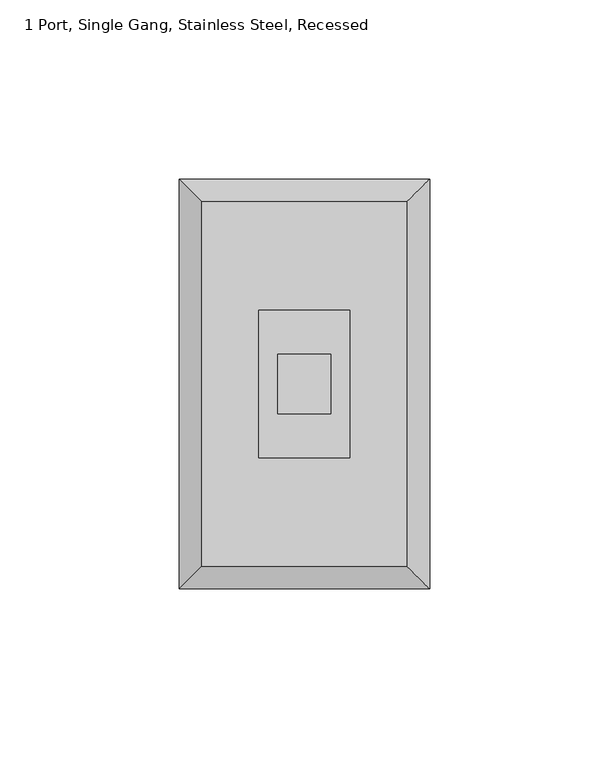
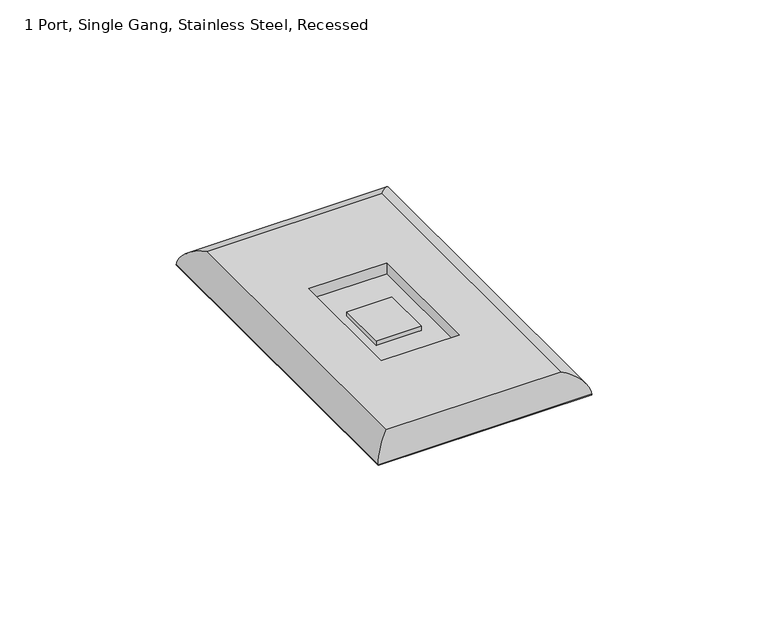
"""IFC4 building model written with IfcOpenShell, lengths in millimetres: electric appliance geometry, Data_Device-Work_Area-Leviton-QuickPort-Wallplate : 1 Port, Single Gang, Stainless Steel, Recessed."""

from ifc_helpers import new_model, si_unit, frame, origin, origin_with_axes, place, context, project, spatial, polyline, ellipse_curve, outline, extrude, source, transform, mapped, element, save
from ifc_brep_helpers import plane_surface, cylinder_surface, advanced_brep


def electric_appliance_1_port_single_gang_stainless_steel_ae41313f(model_context):
    return source(origin(), model_context, "Body", "SolidModel", [
        extrude(outline(polyline([(-15.6591, 16.4465), (-15.6591, -0.0635), (-30.3911, -0.0635), (-30.3911, 16.4465), (-15.6591, 16.4465)])), origin_with_axes(), (0.0, 0.0, 1.0), 3.81),
        advanced_brep(
        [(5.5499, -42.6085, 6.35), (5.5499, 58.9915, 6.35), (-51.6001, 58.9915, 6.35), (-51.6001, -42.6085, 6.35), (-35.7251, 28.7655, 6.35), (-10.3251, 28.7655, 6.35), (-10.3251, -12.3825, 6.35), (-35.7251, -12.3825, 6.35), (11.8999, 65.3415, 0.0), (11.8999, -48.9585, 0.0), (-57.9501, -48.9585, 0.0), (-57.9501, 65.3415, 0.0), (-15.6591, 16.4465, 0.0), (-30.3911, 16.4465, 0.0), (-30.3911, -0.0635, 0.0), (-15.6591, -0.0635, 0.0), (-57.9501, 65.3415, 0.254), (11.8999, 65.3415, 0.254), (-57.9501, -48.9585, 0.254), (11.8999, -48.9585, 0.254), (-15.6591, 16.4465, 2.54), (-30.3911, 16.4465, 2.54), (-30.3911, -0.0635, 2.54), (-15.6591, -0.0635, 2.54), (-10.3251, 28.7655, 2.54), (-35.7251, 28.7655, 2.54), (-35.7251, -12.3825, 2.54), (-10.3251, -12.3825, 2.54)],
        [
            (0, 1),
            (1, 2),
            (2, 3),
            (3, 0),
            (4, 5),
            (5, 6),
            (6, 7),
            (7, 4),
            (8, 9),
            (9, 10),
            (10, 11),
            (11, 8),
            (12, 13),
            (13, 14),
            (14, 15),
            (15, 12),
            (11, 16),
            (16, 17),
            (17, 8),
            (10, 18),
            (18, 16),
            (9, 19),
            (19, 18),
            (17, 19),
            (12, 20),
            (20, 21),
            (21, 13),
            (21, 22),
            (22, 14),
            (22, 23),
            (23, 15),
            (23, 20),
            (24, 25),
            (25, 26),
            (26, 27),
            (27, 24),
            (24, 5),
            (4, 25),
            (7, 26),
            (6, 27),
            (0, 19, ellipse_curve(frame((5.5499, -42.6085, -0.0052917), z_axis=(0.7071067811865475, 0.7071067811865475, 0.0), x_axis=(0.7071067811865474, -0.7071067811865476, 0.0)), 8.9877397, 6.3552917)),
            (17, 1, ellipse_curve(frame((5.5499, 58.9915, -0.0052917), z_axis=(0.7071067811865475, -0.7071067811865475, 0.0), x_axis=(-0.7071067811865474, -0.7071067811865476, 0.0)), 8.9877397, 6.3552917)),
            (3, 18, ellipse_curve(frame((-51.6001, -42.6085, -0.0052917), z_axis=(0.7071067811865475, -0.7071067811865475, 0.0), x_axis=(-0.7071067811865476, -0.7071067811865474, 0.0)), 8.9877397, 6.3552917)),
            (2, 16, ellipse_curve(frame((-51.6001, 58.9915, -0.0052917), z_axis=(-0.7071067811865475, -0.7071067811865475, 0.0), x_axis=(-0.7071067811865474, 0.7071067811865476, 0.0)), 8.9877397, 6.3552917)),
        ],
        [
            plane_surface(frame((-57.9501, 65.3415, 6.35), z_axis=(0.0, 0.0, 1.0), x_axis=(-1.0, 0.0, 0.0))),
            plane_surface(frame((-57.9501, 65.3415, 0.0), z_axis=(0.0, 0.0, -1.0), x_axis=(1.0, 0.0, 0.0))),
            plane_surface(frame((11.8999, 65.3415, 6.35), z_axis=(0.0, 1.0, 0.0), x_axis=(0.0, 0.0, -1.0))),
            plane_surface(frame((-57.9501, 65.3415, 6.35), z_axis=(-1.0, 0.0, 0.0), x_axis=(0.0, 0.0, -1.0))),
            plane_surface(frame((-57.9501, -48.9585, 6.35), z_axis=(0.0, -1.0, 0.0), x_axis=(0.0, 0.0, -1.0))),
            plane_surface(frame((11.8999, -48.9585, 6.35), z_axis=(1.0, 0.0, 0.0), x_axis=(0.0, 0.0, -1.0))),
            plane_surface(frame((-15.6591, 16.4465, 3.81), z_axis=(0.0, -1.0, 0.0), x_axis=(0.0, 0.0, -1.0))),
            plane_surface(frame((-30.3911, 16.4465, 3.81), z_axis=(1.0, 0.0, 0.0), x_axis=(0.0, 0.0, -1.0))),
            plane_surface(frame((-30.3911, -0.0635, 3.81), z_axis=(0.0, 1.0, 0.0), x_axis=(0.0, 0.0, -1.0))),
            plane_surface(frame((-15.6591, -0.0635, 3.81), z_axis=(-1.0, 0.0, 0.0), x_axis=(0.0, 0.0, -1.0))),
            plane_surface(frame((-35.7251, 28.7655, 2.54), z_axis=(0.0, 0.0, 1.0), x_axis=(1.0, 0.0, 0.0))),
            plane_surface(frame((-10.3251, 28.7655, 6.35), z_axis=(0.0, -1.0, 0.0), x_axis=(0.0, 0.0, -1.0))),
            plane_surface(frame((-35.7251, 28.7655, 6.35), z_axis=(1.0, 0.0, 0.0), x_axis=(0.0, 0.0, -1.0))),
            plane_surface(frame((-35.7251, -12.3825, 6.35), z_axis=(0.0, 1.0, 0.0), x_axis=(0.0, 0.0, -1.0))),
            plane_surface(frame((-10.3251, -12.3825, 6.35), z_axis=(-1.0, 0.0, 0.0), x_axis=(0.0, 0.0, -1.0))),
            cylinder_surface(frame((5.5499, 65.3415, -0.0052917), z_axis=(0.0, -1.0, 0.0), x_axis=(1.0, 0.0, 0.0)), 6.3552917),
            cylinder_surface(frame((11.8999, -42.6085, -0.0052917), z_axis=(-1.0, 0.0, 0.0), x_axis=(0.0, -1.0, 0.0)), 6.3552917),
            cylinder_surface(frame((-51.6001, -48.9585, -0.0052917), z_axis=(0.0, 1.0, 0.0), x_axis=(-1.0, 0.0, 0.0)), 6.3552917),
            cylinder_surface(frame((-57.9501, 58.9915, -0.0052917), z_axis=(1.0, 0.0, 0.0), x_axis=(0.0, 1.0, 0.0)), 6.3552917),
        ],
        [
            (0, [[1, 2, 3, 4], [5, 6, 7, 8]]),
            (1, [[9, 10, 11, 12], [13, 14, 15, 16]]),
            (2, [[-12, 17, 18, 19]]),
            (3, [[-11, 20, 21, -17]]),
            (4, [[-10, 22, 23, -20]]),
            (5, [[-9, -19, 24, -22]]),
            (6, [[-13, 25, 26, 27]]),
            (7, [[-14, -27, 28, 29]]),
            (8, [[-15, -29, 30, 31]]),
            (9, [[-16, -31, 32, -25]]),
            (10, [[33, 34, 35, 36], [-26, -32, -30, -28]]),
            (11, [[-33, 37, -5, 38]]),
            (12, [[-34, -38, -8, 39]]),
            (13, [[-35, -39, -7, 40]]),
            (14, [[-36, -40, -6, -37]]),
            (15, [[41, -24, 42, -1]]),
            (16, [[-41, -4, 43, -23]]),
            (17, [[-43, -3, 44, -21]]),
            (18, [[-42, -18, -44, -2]]),
        ],
    ),
        extrude(outline(polyline([(11.6459, 65.0875), (11.6459, -48.7045), (-57.6961, -48.7045), (-57.6961, 65.0875), (11.6459, 65.0875)]), holes=[polyline([(-15.6591, 16.4465), (-30.3911, 16.4465), (-30.3911, -0.0635), (-15.6591, -0.0635), (-15.6591, 16.4465)])]), origin_with_axes(), (0.0, 0.0, 1.0), 0.254),
    ])


if __name__ == "__main__":
    model = new_model("IFC4")
    model_context = context("Model", 3, world=origin())
    ifc_project = project(units=[si_unit("LENGTHUNIT", "METRE", prefix="MILLI")], contexts=[model_context])
    site = spatial("IfcSite", under=ifc_project)
    building = spatial("IfcBuilding", under=site)
    placement = place(None, origin())
    electric_appliance_1_port_single_gang_stainless_steel_shape = electric_appliance_1_port_single_gang_stainless_steel_ae41313f(model_context)
    element("IfcElectricAppliance", 1, ObjectType="Data_Device-Work_Area-Leviton-QuickPort-Wallplate : 1 Port, Single Gang, Stainless Steel, Recessed", at=placement, inside=building, context=model_context, shape_type="MappedRepresentation", body=[
        mapped(electric_appliance_1_port_single_gang_stainless_steel_shape, transform((0.0, 0.0, 0.0), x_axis=(1.0, 0.0, 0.0), y_axis=(0.0, 1.0, 0.0), z_axis=(0.0, 0.0, 1.0))),
    ])
    save(model, "model.ifc")
